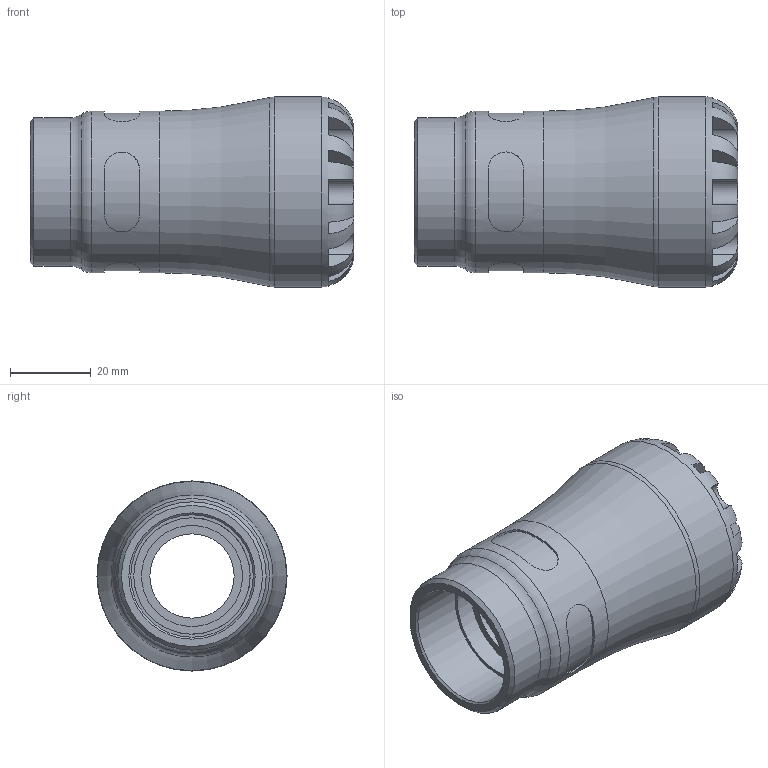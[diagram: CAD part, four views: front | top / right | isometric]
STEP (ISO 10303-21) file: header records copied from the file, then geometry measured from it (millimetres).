
FILE_DESCRIPTION(/* description */ ('PLASSON FEMALE ADAPTOR 25x1" SERIES 1'),/* implementation_level */ '2;1');
FILE_NAME(/* name */ 'C:\Dropbox\KIMPROJECTS-Inventor\99-16-3568-Processing\S1\27.01.19\1003G\1003G0025010_1903G0025010.ipt.stp',/* time_stamp */ '2019-01-27T09:12:04+02:00',/* author */ ('KIM'),/* organization */ (''),/* preprocessor_version */ 'ST-DEVELOPER v15.6',/* originating_system */ 'Autodesk Inventor 2015',/* authorisation */ '');
FILE_SCHEMA (('AUTOMOTIVE_DESIGN { 1 0 10303 214 3 1 1 }'));
Length unit declared in the file: millimetre
Products named in the file (1): 1003G0025010_1903G0025010
Bounding box: 80 x 47 x 47 mm (x, y, z)
Volume: 65206 mm3; surface area: 19856 mm2
Topology: 1 solids, 1 shells, 106 faces, 259 edges, 162 vertices
Faces by surface type: plane 62, cylinder 36, torus 5, cone 3
Full cylindrical faces by diameter (mm): 20.833 x1, 25 x2, 28.776 x1, 30.291 x1, 36.66 x1, 39.95 x1, 47 x1
Entity records: 3792 total; most frequent: CARTESIAN_POINT 1423, DIRECTION 480, ORIENTED_EDGE 474, EDGE_CURVE 237, AXIS2_PLACEMENT_3D 200, VERTEX_POINT 157, EDGE_LOOP 132, FACE_OUTER_BOUND 106
